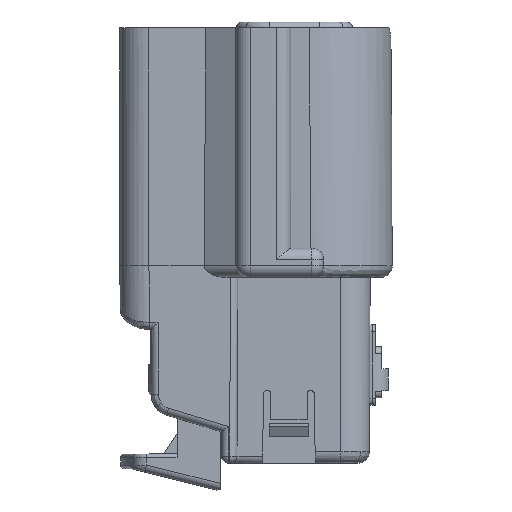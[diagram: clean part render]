
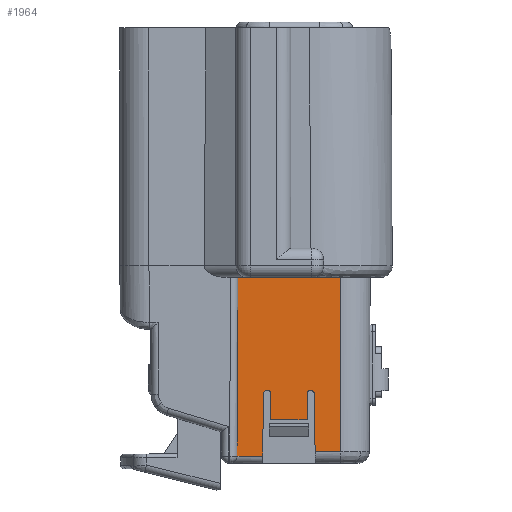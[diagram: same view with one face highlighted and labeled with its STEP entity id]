
A CAD part, left-side view. The second image highlights one B-rep face of the part: STEP entity #1964.
In plain terms, the highlighted planar face has unit normal (-1, 0, -0.004).
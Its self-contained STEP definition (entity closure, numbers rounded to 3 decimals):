
#1964=ADVANCED_FACE('',(#4230),#4231,.T.);
#4230=FACE_OUTER_BOUND('',#8033,.T.);
#4231=PLANE('',#8034);
#8033=EDGE_LOOP('',(#14400,#14401,#14402,#14403,#14404,#14405,#14406,#14407,#14408,#14409,#14410,#14411,#14412,#14413,#14414,#14415));
#8034=AXIS2_PLACEMENT_3D('',#14416,#14417,#14418);
#14400=ORIENTED_EDGE('',*,*,#19402,.T.);
#14401=ORIENTED_EDGE('',*,*,#19403,.F.);
#14402=ORIENTED_EDGE('',*,*,#19404,.F.);
#14403=ORIENTED_EDGE('',*,*,#19130,.T.);
#14404=ORIENTED_EDGE('',*,*,#19405,.T.);
#14405=ORIENTED_EDGE('',*,*,#19406,.F.);
#14406=ORIENTED_EDGE('',*,*,#19407,.T.);
#14407=ORIENTED_EDGE('',*,*,#19408,.F.);
#14408=ORIENTED_EDGE('',*,*,#19409,.F.);
#14409=ORIENTED_EDGE('',*,*,#19410,.F.);
#14410=ORIENTED_EDGE('',*,*,#19392,.T.);
#14411=ORIENTED_EDGE('',*,*,#19411,.F.);
#14412=ORIENTED_EDGE('',*,*,#19383,.T.);
#14413=ORIENTED_EDGE('',*,*,#19412,.F.);
#14414=ORIENTED_EDGE('',*,*,#19400,.F.);
#14415=ORIENTED_EDGE('',*,*,#19413,.F.);
#14416=CARTESIAN_POINT('',(-8.779,3.02,-19.3));
#14417=DIRECTION('',(-1.,0.,-0.004));
#14418=DIRECTION('',(0.,1.0,0.));
#19130=EDGE_CURVE('',#23226,#23224,#23227,.T.);
#19383=EDGE_CURVE('',#23660,#23661,#23662,.T.);
#19392=EDGE_CURVE('',#23676,#23674,#23677,.T.);
#19400=EDGE_CURVE('',#23685,#23683,#23687,.T.);
#19402=EDGE_CURVE('',#23689,#23690,#23691,.T.);
#19403=EDGE_CURVE('',#23327,#23690,#23692,.T.);
#19404=EDGE_CURVE('',#23226,#23327,#23693,.T.);
#19405=EDGE_CURVE('',#23224,#23694,#23695,.T.);
#19406=EDGE_CURVE('',#23696,#23694,#23697,.T.);
#19407=EDGE_CURVE('',#23696,#23698,#23699,.T.);
#19408=EDGE_CURVE('',#23700,#23698,#23701,.T.);
#19409=EDGE_CURVE('',#23702,#23700,#23703,.T.);
#19410=EDGE_CURVE('',#23676,#23702,#23704,.T.);
#19411=EDGE_CURVE('',#23660,#23674,#23705,.T.);
#19412=EDGE_CURVE('',#23683,#23661,#23706,.T.);
#19413=EDGE_CURVE('',#23689,#23685,#23707,.T.);
#23224=VERTEX_POINT('',#29352);
#23226=VERTEX_POINT('',#29355);
#23227=LINE('',#29356,#29357);
#23327=VERTEX_POINT('',#29518);
#23660=VERTEX_POINT('',#30243);
#23661=VERTEX_POINT('',#30244);
#23662=LINE('',#30245,#30246);
#23674=VERTEX_POINT('',#30264);
#23676=VERTEX_POINT('',#30267);
#23677=LINE('',#30268,#30269);
#23683=VERTEX_POINT('',#30278);
#23685=VERTEX_POINT('',#30281);
#23687=LINE('',#30284,#30285);
#23689=VERTEX_POINT('',#30287);
#23690=VERTEX_POINT('',#30288);
#23691=LINE('',#30289,#30290);
#23692=LINE('',#30291,#30292);
#23693=LINE('',#30293,#30294);
#23694=VERTEX_POINT('',#30295);
#23695=LINE('',#30296,#30297);
#23696=VERTEX_POINT('',#30298);
#23697=LINE('',#30299,#30300);
#23698=VERTEX_POINT('',#30301);
#23699=LINE('',#30302,#30303);
#23700=VERTEX_POINT('',#30304);
#23701=ELLIPSE('',#30305,0.2,0.2);
#23702=VERTEX_POINT('',#30306);
#23703=LINE('',#30307,#30308);
#23704=ELLIPSE('',#30309,0.2,0.2);
#23705=LINE('',#30310,#30311);
#23706=ELLIPSE('',#30312,0.2,0.2);
#23707=ELLIPSE('',#30313,0.2,0.2);
#29352=CARTESIAN_POINT('',(-8.789,3.311,-17.14));
#29355=CARTESIAN_POINT('',(-8.789,-3.779,-17.14));
#29356=CARTESIAN_POINT('',(-8.789,-7.059,-17.14));
#29357=VECTOR('',#35297,1000.0);
#29518=CARTESIAN_POINT('',(-8.737,-3.727,-29.103));
#30243=CARTESIAN_POINT('',(-8.746,-1.453,-26.9));
#30244=CARTESIAN_POINT('',(-8.754,-1.453,-25.1));
#30245=CARTESIAN_POINT('',(-8.844,-1.453,-4.55));
#30246=VECTOR('',#35534,1000.0);
#30264=CARTESIAN_POINT('',(-8.746,1.053,-26.9));
#30267=CARTESIAN_POINT('',(-8.754,1.053,-25.1));
#30268=CARTESIAN_POINT('',(-8.844,1.053,-4.55));
#30269=VECTOR('',#35542,1000.0);
#30278=CARTESIAN_POINT('',(-8.755,-1.653,-24.9));
#30281=CARTESIAN_POINT('',(-8.755,-1.733,-24.9));
#30284=CARTESIAN_POINT('',(-8.755,-0.71,-24.9));
#30285=VECTOR('',#35548,1000.0);
#30287=CARTESIAN_POINT('',(-8.754,-1.933,-25.097));
#30288=CARTESIAN_POINT('',(-8.737,-2.003,-29.103));
#30289=CARTESIAN_POINT('',(-8.844,-1.574,-4.55));
#30290=VECTOR('',#35549,1000.0);
#30291=CARTESIAN_POINT('',(-8.737,-7.059,-29.103));
#30292=VECTOR('',#35550,1000.0);
#30293=CARTESIAN_POINT('',(-8.844,-3.834,-4.559));
#30294=VECTOR('',#35551,1000.0);
#30295=CARTESIAN_POINT('',(-8.735,3.364,-29.402));
#30296=CARTESIAN_POINT('',(-8.779,3.32,-19.299));
#30297=VECTOR('',#35552,1000.0);
#30298=CARTESIAN_POINT('',(-8.735,1.608,-29.402));
#30299=CARTESIAN_POINT('',(-8.735,-7.059,-29.402));
#30300=VECTOR('',#35553,1000.0);
#30301=CARTESIAN_POINT('',(-8.754,1.533,-25.097));
#30302=CARTESIAN_POINT('',(-8.844,1.174,-4.55));
#30303=VECTOR('',#35554,1000.0);
#30304=CARTESIAN_POINT('',(-8.755,1.333,-24.9));
#30305=AXIS2_PLACEMENT_3D('',#35555,#35556,#35557);
#30306=CARTESIAN_POINT('',(-8.755,1.253,-24.9));
#30307=CARTESIAN_POINT('',(-8.755,-0.71,-24.9));
#30308=VECTOR('',#35558,1000.0);
#30309=AXIS2_PLACEMENT_3D('',#35559,#35560,#35561);
#30310=CARTESIAN_POINT('',(-8.746,-0.2,-26.9));
#30311=VECTOR('',#35562,1000.0);
#30312=AXIS2_PLACEMENT_3D('',#35563,#35564,#35565);
#30313=AXIS2_PLACEMENT_3D('',#35566,#35567,#35568);
#35297=DIRECTION('',(0.,1.0,0.));
#35534=DIRECTION('',(-0.004,0.,1.));
#35542=DIRECTION('',(0.004,0.,-1.));
#35548=DIRECTION('',(0.,1.0,0.));
#35549=DIRECTION('',(0.004,-0.017,-1.));
#35550=DIRECTION('',(0.,1.0,0.));
#35551=DIRECTION('',(0.004,0.004,-1.));
#35552=DIRECTION('',(0.004,0.004,-1.));
#35553=DIRECTION('',(0.,1.0,0.));
#35554=DIRECTION('',(-0.004,-0.017,1.));
#35555=CARTESIAN_POINT('',(-8.754,1.333,-25.1));
#35556=DIRECTION('',(-1.,0.,-0.004));
#35557=DIRECTION('',(-0.004,-0.104,0.995));
#35558=DIRECTION('',(0.,1.0,0.));
#35559=CARTESIAN_POINT('',(-8.754,1.253,-25.1));
#35560=DIRECTION('',(-1.,0.,-0.004));
#35561=DIRECTION('',(-0.004,-0.087,0.996));
#35562=DIRECTION('',(0.,1.0,0.));
#35563=CARTESIAN_POINT('',(-8.754,-1.653,-25.1));
#35564=DIRECTION('',(-1.,0.,-0.004));
#35565=DIRECTION('',(-0.004,0.087,0.996));
#35566=CARTESIAN_POINT('',(-8.754,-1.733,-25.1));
#35567=DIRECTION('',(-1.,0.,-0.004));
#35568=DIRECTION('',(-0.004,0.104,0.995));
